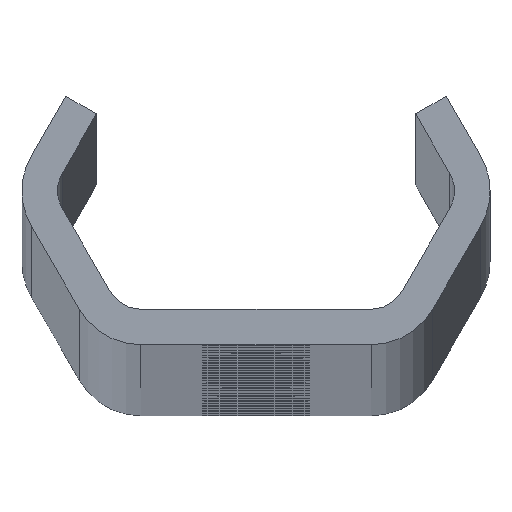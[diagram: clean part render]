
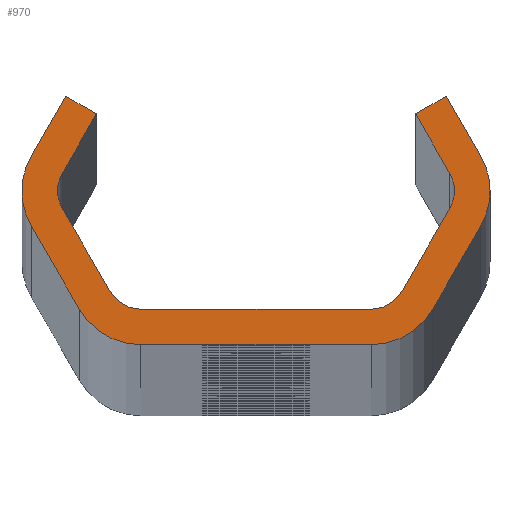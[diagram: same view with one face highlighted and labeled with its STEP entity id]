
A CAD part, top view. The second image highlights one B-rep face of the part: STEP entity #970.
In plain terms, the highlighted planar face has unit normal (0, 0, 1).
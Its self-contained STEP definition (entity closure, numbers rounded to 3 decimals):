
#970=ADVANCED_FACE('NONE',(#2721),#2722,.F.);
#2721=FACE_OUTER_BOUND('',#8937,.T.);
#2722=PLANE('',#8938);
#8937=EDGE_LOOP('',(#18146,#18147,#18148,#18149,#18150,#18151,#18152,#18153,#18154,#18155,#18156,#18157,#18158,#18159,#18160,#18161,#18162,#18163,#18164,#18165,#18166,#18167,#18168,#18169));
#8938=AXIS2_PLACEMENT_3D('',#18170,#18171,#18172);
#18146=ORIENTED_EDGE('',*,*,#24221,.T.);
#18147=ORIENTED_EDGE('',*,*,#24275,.T.);
#18148=ORIENTED_EDGE('',*,*,#23725,.T.);
#18149=ORIENTED_EDGE('',*,*,#24223,.T.);
#18150=ORIENTED_EDGE('',*,*,#24276,.T.);
#18151=ORIENTED_EDGE('',*,*,#24227,.T.);
#18152=ORIENTED_EDGE('',*,*,#24277,.T.);
#18153=ORIENTED_EDGE('',*,*,#23732,.T.);
#18154=ORIENTED_EDGE('',*,*,#24278,.T.);
#18155=ORIENTED_EDGE('',*,*,#23283,.T.);
#18156=ORIENTED_EDGE('',*,*,#23735,.T.);
#18157=ORIENTED_EDGE('',*,*,#23741,.T.);
#18158=ORIENTED_EDGE('',*,*,#23744,.T.);
#18159=ORIENTED_EDGE('',*,*,#23722,.T.);
#18160=ORIENTED_EDGE('',*,*,#24279,.T.);
#18161=ORIENTED_EDGE('',*,*,#23746,.T.);
#18162=ORIENTED_EDGE('',*,*,#24280,.T.);
#18163=ORIENTED_EDGE('',*,*,#23753,.T.);
#18164=ORIENTED_EDGE('',*,*,#24281,.T.);
#18165=ORIENTED_EDGE('',*,*,#24208,.T.);
#18166=ORIENTED_EDGE('',*,*,#24282,.T.);
#18167=ORIENTED_EDGE('',*,*,#23278,.T.);
#18168=ORIENTED_EDGE('',*,*,#24211,.T.);
#18169=ORIENTED_EDGE('',*,*,#24217,.T.);
#18170=CARTESIAN_POINT('',(0.0,0.0,3440.0));
#18171=DIRECTION('',(0.0,0.0,-1.0));
#18172=DIRECTION('',(0.0,-1.0,0.0));
#23278=EDGE_CURVE('NONE',#25930,#25934,#25936,.T.);
#23283=EDGE_CURVE('NONE',#25939,#25943,#25945,.T.);
#23722=EDGE_CURVE('NONE',#26735,#26733,#26736,.T.);
#23725=EDGE_CURVE('NONE',#26739,#26740,#26741,.T.);
#23732=EDGE_CURVE('NONE',#26753,#26751,#26754,.T.);
#23735=EDGE_CURVE('NONE',#25943,#26757,#26758,.T.);
#23741=EDGE_CURVE('NONE',#26757,#26765,#26767,.T.);
#23744=EDGE_CURVE('NONE',#26765,#26735,#26770,.T.);
#23746=EDGE_CURVE('NONE',#26772,#26773,#26774,.T.);
#23753=EDGE_CURVE('NONE',#26786,#26784,#26787,.T.);
#24208=EDGE_CURVE('NONE',#27630,#27628,#27631,.T.);
#24211=EDGE_CURVE('NONE',#25934,#27634,#27635,.T.);
#24217=EDGE_CURVE('NONE',#27634,#27642,#27644,.T.);
#24221=EDGE_CURVE('NONE',#27642,#27648,#27650,.T.);
#24223=EDGE_CURVE('NONE',#26740,#27652,#27653,.T.);
#24227=EDGE_CURVE('NONE',#27658,#27659,#27660,.T.);
#24275=EDGE_CURVE('NONE',#27648,#26739,#27710,.T.);
#24276=EDGE_CURVE('NONE',#27652,#27658,#27711,.T.);
#24277=EDGE_CURVE('NONE',#27659,#26753,#27712,.T.);
#24278=EDGE_CURVE('NONE',#26751,#25939,#27713,.T.);
#24279=EDGE_CURVE('NONE',#26733,#26772,#27714,.T.);
#24280=EDGE_CURVE('NONE',#26773,#26786,#27715,.T.);
#24281=EDGE_CURVE('NONE',#26784,#27630,#27716,.T.);
#24282=EDGE_CURVE('NONE',#27628,#25930,#27717,.T.);
#25930=VERTEX_POINT('',#29860);
#25934=VERTEX_POINT('NONE',#29865);
#25936=CIRCLE('',#29868,3.0);
#25939=VERTEX_POINT('',#29871);
#25943=VERTEX_POINT('NONE',#29876);
#25945=CIRCLE('',#29879,6.0);
#26733=VERTEX_POINT('NONE',#34603);
#26735=VERTEX_POINT('NONE',#34606);
#26736=CIRCLE('',#34607,3.0);
#26739=VERTEX_POINT('NONE',#34611);
#26740=VERTEX_POINT('NONE',#34612);
#26741=CIRCLE('',#34613,6.0);
#26751=VERTEX_POINT('NONE',#34626);
#26753=VERTEX_POINT('NONE',#34629);
#26754=LINE('',#34630,#34631);
#26757=VERTEX_POINT('NONE',#34635);
#26758=LINE('',#34636,#34637);
#26765=VERTEX_POINT('NONE',#34647);
#26767=LINE('',#34650,#34651);
#26770=LINE('',#34655,#34656);
#26772=VERTEX_POINT('NONE',#34658);
#26773=VERTEX_POINT('NONE',#34659);
#26774=LINE('',#34660,#34661);
#26784=VERTEX_POINT('NONE',#34675);
#26786=VERTEX_POINT('NONE',#34678);
#26787=LINE('',#34679,#34680);
#27628=VERTEX_POINT('NONE',#37723);
#27630=VERTEX_POINT('NONE',#37726);
#27631=LINE('',#37727,#37728);
#27634=VERTEX_POINT('NONE',#37732);
#27635=LINE('',#37733,#37734);
#27642=VERTEX_POINT('NONE',#37744);
#27644=LINE('',#37747,#37748);
#27648=VERTEX_POINT('NONE',#37753);
#27650=LINE('',#37756,#37757);
#27652=VERTEX_POINT('NONE',#37759);
#27653=LINE('',#37760,#37761);
#27658=VERTEX_POINT('NONE',#37768);
#27659=VERTEX_POINT('NONE',#37769);
#27660=LINE('',#37770,#37771);
#27710=CIRCLE('',#37824,6.0);
#27711=CIRCLE('',#37825,6.0);
#27712=CIRCLE('',#37826,6.0);
#27713=CIRCLE('',#37827,6.0);
#27714=CIRCLE('',#37828,3.0);
#27715=CIRCLE('',#37829,3.0);
#27716=CIRCLE('',#37830,3.0);
#27717=CIRCLE('',#37831,3.0);
#29860=CARTESIAN_POINT('',(-16.764,0.,3440.0));
#29865=CARTESIAN_POINT('',(-16.362,1.5,3440.0));
#29868=AXIS2_PLACEMENT_3D('',#44927,#44928,#44929);
#29871=CARTESIAN_POINT('',(19.764,0.,3440.0));
#29876=CARTESIAN_POINT('',(18.96,3.,3440.0));
#29879=AXIS2_PLACEMENT_3D('',#44935,#44936,#44937);
#34603=CARTESIAN_POINT('',(16.764,0.,3440.0));
#34606=CARTESIAN_POINT('',(16.362,1.5,3440.0));
#34607=AXIS2_PLACEMENT_3D('',#45374,#45375,#45376);
#34611=CARTESIAN_POINT('',(-19.764,0.,3440.0));
#34612=CARTESIAN_POINT('',(-18.96,-3.,3440.0));
#34613=AXIS2_PLACEMENT_3D('',#45378,#45379,#45380);
#34626=CARTESIAN_POINT('',(18.96,-3.,3440.0));
#34629=CARTESIAN_POINT('',(14.919,-10.,3440.0));
#34630=CARTESIAN_POINT('',(20.692,0.,3440.0));
#34631=VECTOR('',#45388,1000.0);
#34635=CARTESIAN_POINT('',(16.074,8.,3440.0));
#34636=CARTESIAN_POINT('',(16.074,8.,3440.0));
#34637=VECTOR('',#45390,1000.0);
#34647=CARTESIAN_POINT('',(13.475,6.5,3440.0));
#34650=CARTESIAN_POINT('',(13.475,6.5,3440.0));
#34651=VECTOR('',#45395,1000.0);
#34655=CARTESIAN_POINT('',(17.228,0.,3440.0));
#34656=VECTOR('',#45397,1000.0);
#34658=CARTESIAN_POINT('',(16.362,-1.5,3440.0));
#34659=CARTESIAN_POINT('',(12.321,-8.5,3440.0));
#34660=CARTESIAN_POINT('',(11.455,-10.0,3440.0));
#34661=VECTOR('',#45398,1000.0);
#34675=CARTESIAN_POINT('',(-9.723,-10.0,3440.0));
#34678=CARTESIAN_POINT('',(9.723,-10.0,3440.0));
#34679=CARTESIAN_POINT('',(-11.455,-10.0,3440.0));
#34680=VECTOR('',#45404,1000.0);
#37723=CARTESIAN_POINT('',(-16.362,-1.5,3440.0));
#37726=CARTESIAN_POINT('',(-12.321,-8.5,3440.0));
#37727=CARTESIAN_POINT('',(-17.228,0.,3440.0));
#37728=VECTOR('',#45900,1000.0);
#37732=CARTESIAN_POINT('',(-13.475,6.5,3440.0));
#37733=CARTESIAN_POINT('',(-13.475,6.5,3440.0));
#37734=VECTOR('',#45902,1000.0);
#37744=CARTESIAN_POINT('',(-16.074,8.,3440.0));
#37747=CARTESIAN_POINT('',(-13.475,6.5,3440.0));
#37748=VECTOR('',#45907,1000.0);
#37753=CARTESIAN_POINT('',(-18.96,3.,3440.0));
#37756=CARTESIAN_POINT('',(-16.074,8.,3440.0));
#37757=VECTOR('',#45910,1000.0);
#37759=CARTESIAN_POINT('',(-14.919,-10.,3440.0));
#37760=CARTESIAN_POINT('',(-20.692,0.,3440.0));
#37761=VECTOR('',#45911,1000.0);
#37768=CARTESIAN_POINT('',(-9.723,-13.0,3440.0));
#37769=CARTESIAN_POINT('',(9.723,-13.0,3440.0));
#37770=CARTESIAN_POINT('',(-13.187,-13.0,3440.0));
#37771=VECTOR('',#45914,1000.0);
#37824=AXIS2_PLACEMENT_3D('',#46047,#46048,#46049);
#37825=AXIS2_PLACEMENT_3D('',#46050,#46051,#46052);
#37826=AXIS2_PLACEMENT_3D('',#46053,#46054,#46055);
#37827=AXIS2_PLACEMENT_3D('',#46056,#46057,#46058);
#37828=AXIS2_PLACEMENT_3D('',#46059,#46060,#46061);
#37829=AXIS2_PLACEMENT_3D('',#46062,#46063,#46064);
#37830=AXIS2_PLACEMENT_3D('',#46065,#46066,#46067);
#37831=AXIS2_PLACEMENT_3D('',#46068,#46069,#46070);
#44927=CARTESIAN_POINT('',(-13.764,0.,3440.0));
#44928=DIRECTION('',(0.0,0.0,-1.0));
#44929=DIRECTION('',(-1.0,0.0,0.0));
#44935=CARTESIAN_POINT('',(13.764,0.,3440.0));
#44936=DIRECTION('',(0.0,0.0,1.0));
#44937=DIRECTION('',(-1.0,0.0,0.0));
#45374=CARTESIAN_POINT('',(13.764,0.,3440.0));
#45375=DIRECTION('',(0.0,0.0,-1.0));
#45376=DIRECTION('',(-1.0,0.0,0.0));
#45378=CARTESIAN_POINT('',(-13.764,0.,3440.0));
#45379=DIRECTION('',(0.0,0.0,1.0));
#45380=DIRECTION('',(-1.0,0.0,0.0));
#45388=DIRECTION('',(0.5,0.866,-0.0));
#45390=DIRECTION('',(-0.5,0.866,-0.0));
#45395=DIRECTION('',(-0.866,-0.5,-0.0));
#45397=DIRECTION('',(0.5,-0.866,-0.0));
#45398=DIRECTION('',(-0.5,-0.866,-0.0));
#45404=DIRECTION('',(-1.0,0.,-0.0));
#45900=DIRECTION('',(-0.5,0.866,-0.0));
#45902=DIRECTION('',(0.5,0.866,-0.0));
#45907=DIRECTION('',(-0.866,0.5,0.0));
#45910=DIRECTION('',(-0.5,-0.866,0.0));
#45911=DIRECTION('',(0.5,-0.866,0.0));
#45914=DIRECTION('',(1.0,0.0,0.0));
#46047=CARTESIAN_POINT('',(-13.764,0.,3440.0));
#46048=DIRECTION('',(0.0,0.0,1.0));
#46049=DIRECTION('',(-1.0,0.,0.0));
#46050=CARTESIAN_POINT('',(-9.723,-7.0,3440.0));
#46051=DIRECTION('',(0.0,0.0,1.0));
#46052=DIRECTION('',(-1.0,0.0,0.0));
#46053=CARTESIAN_POINT('',(9.723,-7.0,3440.0));
#46054=DIRECTION('',(0.0,0.0,1.0));
#46055=DIRECTION('',(-1.0,0.,0.0));
#46056=CARTESIAN_POINT('',(13.764,0.,3440.0));
#46057=DIRECTION('',(0.0,0.0,1.0));
#46058=DIRECTION('',(-1.0,0.0,0.0));
#46059=CARTESIAN_POINT('',(13.764,0.,3440.0));
#46060=DIRECTION('',(0.0,0.0,-1.0));
#46061=DIRECTION('',(-1.0,0.0,0.0));
#46062=CARTESIAN_POINT('',(9.723,-7.0,3440.0));
#46063=DIRECTION('',(0.0,0.0,-1.0));
#46064=DIRECTION('',(-1.0,0.0,0.0));
#46065=CARTESIAN_POINT('',(-9.723,-7.0,3440.0));
#46066=DIRECTION('',(0.0,0.0,-1.0));
#46067=DIRECTION('',(-1.0,0.0,0.0));
#46068=CARTESIAN_POINT('',(-13.764,0.,3440.0));
#46069=DIRECTION('',(0.0,0.0,-1.0));
#46070=DIRECTION('',(-1.0,0.0,0.0));
